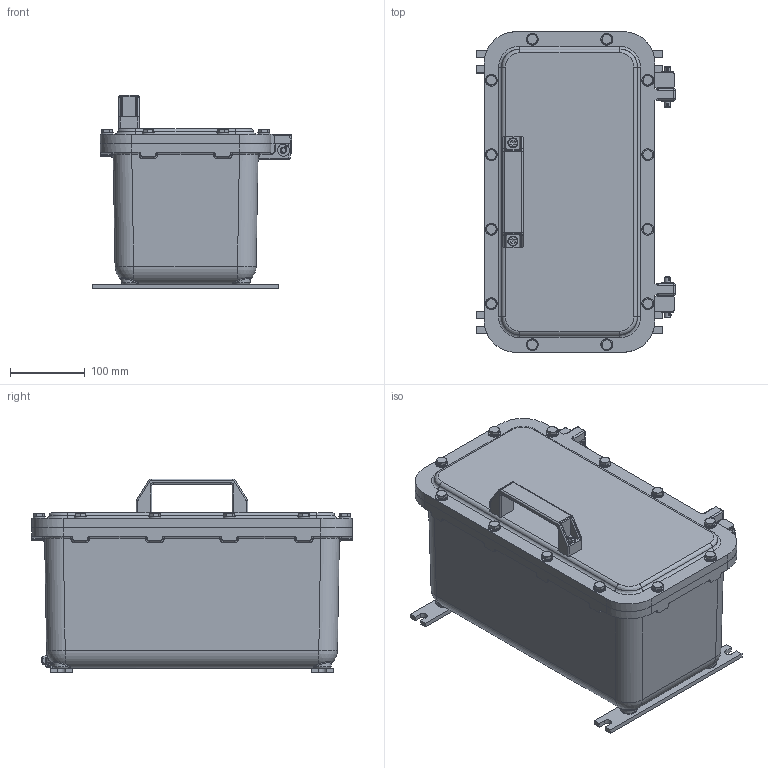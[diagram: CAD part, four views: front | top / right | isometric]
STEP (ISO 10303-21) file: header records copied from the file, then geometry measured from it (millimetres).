
FILE_DESCRIPTION((''),'2;1');
FILE_NAME('\\file-server\cortem_klient\INVENTOR БАЗА МОДЕЛЕЙ\Актуальная база моделей для отдела продаж\ЩОРВ-Н\ЩОРВ-Н432221.stp','2019-04-10T14:51:30',('V.E.Dolguev'),(''),'Autodesk Inventor 2012','Autodesk Inventor 2012','');
FILE_SCHEMA(('AUTOMOTIVE_DESIGN { 1 0 10303 214 1 1 1 1 }'));
Length unit declared in the file: millimetre
Products named in the file (1): ЩОРВ-Н432221
Bounding box: 267.22 x 430 x 260.2 mm (x, y, z)
Surface area: 922271.4 mm2 (no closed solid volume)
Topology: 0 solids, 55 shells, 1641 faces, 3864 edges, 2396 vertices
Faces by surface type: plane 623, cylinder 442, bspline 362, cone 148, sphere 38, torus 28
Full cylindrical faces by diameter (mm): 2.1 x4, 3 x8, 4.9 x6, 4.917 x1, 6 x3, 6.4 x1, 6.5 x2, 6.6 x12, 6.647 x2, 7.323 x12, 7.9 x3, 8 x16, 8.4 x22, 8.5 x18, 10 x4, 11 x4, 11.4 x12, 12 x1, 13 x2, 13.5 x2, 16 x18, 20 x4
Entity records: 66810 total; most frequent: CARTESIAN_POINT 30503, ORIENTED_EDGE 7100, DIRECTION 6467, EDGE_CURVE 3550, AXIS2_PLACEMENT_3D 2419, VERTEX_POINT 2343, EDGE_LOOP 2093, FACE_OUTER_BOUND 1641
